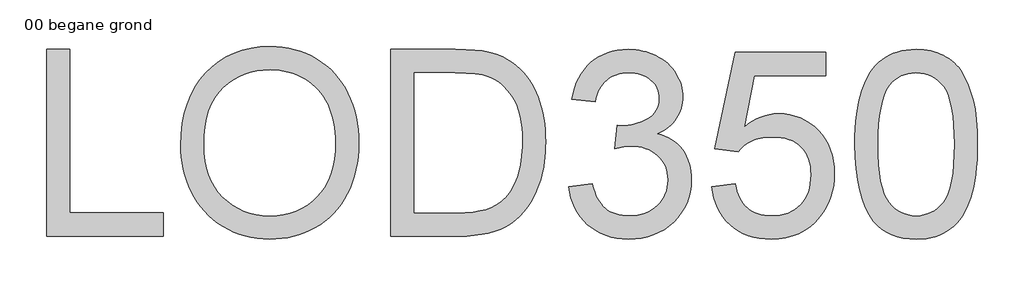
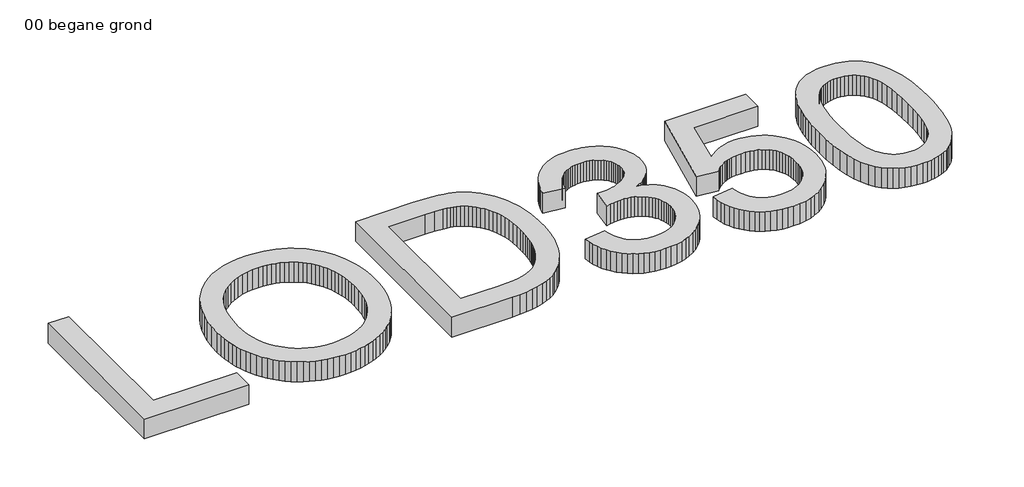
# One storey, part 4 of 4: 1 proxy.
"""IFC4 building model written with IfcOpenShell, lengths in millimetres."""

import ifcopenshell
import ifcopenshell.guid

model = None  # the IFC model being written
_history = None  # IfcOwnerHistory: only IFC2X3 demands one
_inside = {}  # id of a spatial element -> (the spatial element, [elements in it])
_under = {}  # id of a project, library or spatial element -> (it, [spatial elements below it])
_declared = {}  # id of a project -> (the project, [libraries it declares])
_typed = {}  # id of a type object -> (the type object, [elements of that type])
_made_of = {}  # id of a material, layer set ... -> (it, [elements and type objects made of it])


def new_model(schema):
    """Start an empty IFC model of exactly this schema.

    Asked for "IFC4X3", IfcOpenShell would pick the latest addendum, in which some entities
    have other attributes; the version numbers below select the first issue.
    IFC2X3 requires an IfcOwnerHistory on every rooted entity: one is made here for all.
    """
    global model, _history
    if schema == "IFC4X3":
        model = ifcopenshell.file(schema_version=(4, 3, 0, 0))
    else:
        model = ifcopenshell.file(schema=schema)
    _inside.clear()
    _under.clear()
    _declared.clear()
    _typed.clear()
    _made_of.clear()
    _history = None
    if model.schema == "IFC2X3":
        org = make("IfcOrganization", Name="unknown")
        user = make(
            "IfcPersonAndOrganization",
            ThePerson=make("IfcPerson", FamilyName="unknown"),
            TheOrganization=org,
        )
        app = make(
            "IfcApplication",
            ApplicationDeveloper=org,
            Version="unknown",
            ApplicationFullName="unknown",
            ApplicationIdentifier="unknown",
        )
        _history = make(
            "IfcOwnerHistory",
            OwningUser=user,
            OwningApplication=app,
            ChangeAction="ADDED",
            CreationDate=0,
        )
    return model


def make(cls, **values):
    """One entity of the class cls with the attributes given. An attribute that is None is left unset."""
    return model.create_entity(
        cls, **{name: value for name, value in values.items() if value is not None}
    )


def rooted(cls, **values):
    """An entity with a GlobalId (a new one), such as an element, a storey or a relation."""
    return make(cls, GlobalId=ifcopenshell.guid.new(), OwnerHistory=_history, **values)


def si_unit(unit_type, name, prefix=None):
    """IfcSIUnit, for example si_unit("LENGTHUNIT", "METRE", prefix="MILLI")."""
    return make("IfcSIUnit", UnitType=unit_type, Prefix=prefix, Name=name)


def assignment(units):
    """IfcUnitAssignment: the units of a project."""
    return None if units is None else make("IfcUnitAssignment", Units=units)


def point(xyz):
    """IfcCartesianPoint."""
    return None if xyz is None else make("IfcCartesianPoint", Coordinates=xyz)


def direction(xyz):
    """IfcDirection."""
    return None if xyz is None else make("IfcDirection", DirectionRatios=xyz)


def frame(location, z_axis=None, x_axis=None):
    """IfcAxis2Placement3D, a coordinate frame: its origin and axes. An axis left out is left unset."""
    return make(
        "IfcAxis2Placement3D",
        Location=point(location),
        Axis=direction(z_axis),
        RefDirection=direction(x_axis),
    )


def origin():
    """The frame at (0, 0, 0) with its axes left unset."""
    return frame((0.0, 0.0, 0.0))


def origin_with_axes():
    """The frame at (0, 0, 0) with the z axis (0, 0, 1) and the x axis (1, 0, 0) written out."""
    return frame((0.0, 0.0, 0.0), z_axis=(0.0, 0.0, 1.0), x_axis=(1.0, 0.0, 0.0))


def place(relative_to, where):
    """IfcLocalPlacement: puts the frame where relative to a parent placement (None: the world)."""
    return make(
        "IfcLocalPlacement", PlacementRelTo=relative_to, RelativePlacement=where
    )


def context(
    kind, dimensions, precision=None, world=None, true_north=None, identifier=None
):
    """IfcGeometricRepresentationContext, for example the 3D "Model" context."""
    return make(
        "IfcGeometricRepresentationContext",
        ContextIdentifier=identifier,
        ContextType=kind,
        CoordinateSpaceDimension=dimensions,
        Precision=precision,
        WorldCoordinateSystem=world,
        TrueNorth=true_north,
    )


def project(units=None, contexts=None):
    """IfcProject with its units and contexts."""
    return rooted(
        "IfcProject",
        Name="project",
        RepresentationContexts=contexts,
        UnitsInContext=assignment(units),
    )


def spatial(cls, under=None, at=None, **own):
    """A site, building, storey or space (cls), placed at a placement, below another one or the project."""
    s = rooted(cls, ObjectPlacement=at, **own)
    if under is not None:
        _under.setdefault(under.id(), (under, []))[1].append(s)
    return s


def polyline(points):
    """IfcPolyline through the points."""
    return make("IfcPolyline", Points=[point(p) for p in points])


def outline(outer, holes=None, kind="AREA"):
    """IfcArbitraryClosedProfileDef: a profile drawn as a closed curve; with holes, ...WithVoids."""
    if holes is None:
        return make("IfcArbitraryClosedProfileDef", ProfileType=kind, OuterCurve=outer)
    return make(
        "IfcArbitraryProfileDefWithVoids",
        ProfileType=kind,
        OuterCurve=outer,
        InnerCurves=holes,
    )


def extrude(swept, where, along, depth):
    """IfcExtrudedAreaSolid: the profile swept, set in the frame where, extruded along a direction by depth."""
    return make(
        "IfcExtrudedAreaSolid",
        SweptArea=swept,
        Position=where,
        ExtrudedDirection=direction(along),
        Depth=depth,
    )


def shape(context_of_items, identifier, shape_type, items):
    """IfcShapeRepresentation: the items that make up one representation, for example the "Body"."""
    return make(
        "IfcShapeRepresentation",
        ContextOfItems=context_of_items,
        RepresentationIdentifier=identifier,
        RepresentationType=shape_type,
        Items=items,
    )


def made_of(thing, what):
    """Note that an element or type object is made of a material, layer set ...; save() writes the relation."""
    if what is not None:
        _made_of.setdefault(what.id(), (what, []))[1].append(thing)
    return thing


def element(
    cls,
    number,
    at=None,
    inside=None,
    cuts=None,
    type_object=None,
    material=None,
    context=None,
    identifier="Body",
    shape_type=None,
    held_by="IfcProductDefinitionShape",
    body=None,
    shapes=None,
    **own,
):
    """One element of the class cls, such as IfcWall. Its Tag is "e" and its number.

    at: its placement. inside: the storey or other place that contains it. cuts: it is an
    opening in that element (IfcRelVoidsElement). A single representation is given by context,
    identifier, shape_type and body (its items); several are given by shapes. held_by: the class
    of the entity that holds the representations. save() writes the other relations.
    """
    e = rooted(cls, Tag="e%d" % number, ObjectPlacement=at, **own)
    if body is not None:
        shapes = [shape(context, identifier, shape_type, body)]
    if shapes is not None:
        e.Representation = make(held_by, Representations=shapes)
    if inside is not None:
        _inside.setdefault(inside.id(), (inside, []))[1].append(e)
    if cuts is not None:
        rooted(
            "IfcRelVoidsElement", RelatingBuildingElement=cuts, RelatedOpeningElement=e
        )
    if type_object is not None:
        _typed.setdefault(type_object.id(), (type_object, []))[1].append(e)
    return made_of(e, material)


def aggregate(whole, parts):
    """IfcRelAggregates: a whole, such as a stair, and the parts it consists of."""
    return rooted("IfcRelAggregates", RelatingObject=whole, RelatedObjects=parts)


def save(model, path):
    """Write the relations noted so far, then the file.

    IfcRelAggregates (storeys below a building ...), IfcRelContainedInSpatialStructure (elements
    in a storey), IfcRelDefinesByType, IfcRelAssociatesMaterial and IfcRelDeclares: one each for
    every whole, place, type object, material and project.
    """
    for whole, parts in _under.values():
        aggregate(whole, parts)
    for where, things in _inside.values():
        rooted(
            "IfcRelContainedInSpatialStructure",
            RelatedElements=things,
            RelatingStructure=where,
        )
    for kind, things in _typed.values():
        rooted("IfcRelDefinesByType", RelatedObjects=things, RelatingType=kind)
    for what, things in _made_of.values():
        rooted("IfcRelAssociatesMaterial", RelatedObjects=things, RelatingMaterial=what)
    for by, libraries in _declared.values():
        rooted("IfcRelDeclares", RelatingContext=by, RelatedDefinitions=libraries)
    model.write(path)


model = new_model("IFC4")

# Units and contexts
model_context = context("Model", 3, world=origin())
ifc_project = project(units=[si_unit("LENGTHUNIT", "METRE", prefix="MILLI")], contexts=[model_context])

# Site, building, storey
site = spatial("IfcSite", under=ifc_project)
building = spatial("IfcBuilding", under=site)
storey = spatial("IfcBuildingStorey", under=building, Name="00 begane grond", Elevation=0.0)

# Proxy
placement = place(None, origin())
element("IfcBuildingElementProxy", 1, Name="LOD aanduiding", ObjectType="LOD aanduiding", at=placement, inside=storey, context=model_context, shape_type="SweptSolid", body=[
    extrude(outline(polyline([(17168.7261597, 52189.2600205), (17168.7261597, 56181.6808038), (17667.7787576, 56181.6808038), (17667.7787576, 52688.3126184), (19663.9891493, 52688.3126184), (19663.9891493, 52189.2600205), (17168.7261597, 52189.2600205)])), origin_with_axes(), (0.0, 0.0, 1.0), 500.0),
    extrude(outline(polyline([(20038.2785977, 54132.8359585), (20046.5941104, 54373.6964576), (20071.5406483, 54601.1242056), (20113.1182116, 54815.1192023), (20171.3268001, 55015.6814479), (20246.1664139, 55202.8109422), (20337.6370531, 55376.5076853), (20445.7387175, 55536.7716773), (20570.4714072, 55683.602918), (20708.3474805, 55814.9606041), (20855.8792956, 55928.803932), (21013.0668524, 56025.1329018), (21179.9101511, 56103.9475134), (21356.4091915, 56165.2477669), (21542.5639738, 56209.0336623), (21738.3744978, 56235.3051995), (21943.8407636, 56244.0623786), (22079.8283322, 56239.9503119), (22212.4348681, 56227.6141118), (22341.6603715, 56207.0537783), (22467.5048422, 56178.2693115), (22589.9682803, 56141.2607112), (22709.0506858, 56096.0279776), (22824.7520587, 56042.5711106), (22937.0723989, 55980.8901101), (23044.4125695, 55911.8530793), (23145.1734334, 55836.328121), (23239.3549906, 55754.3152353), (23326.9572411, 55665.8144221), (23407.9801848, 55570.8256815), (23482.4238219, 55469.3490134), (23550.2881522, 55361.3844178), (23611.5731758, 55246.9318948), (23665.9438354, 55127.2555242), (23713.0650738, 55003.6193856), (23752.9368908, 54876.023479), (23785.5592866, 54744.4678046), (23810.9322611, 54608.9523622), (23829.0558143, 54469.4771518), (23839.9299462, 54326.0421736), (23843.5546569, 54178.6474274), (23839.7395728, 54029.3184869), (23828.2943205, 53883.9797741), (23809.2189, 53742.6312889), (23782.5133113, 53605.2730315), (23748.1775544, 53471.9050017), (23706.2116293, 53342.5271996), (23656.615536, 53217.1396252), (23599.3892745, 53095.7422784), (23535.1648847, 52979.9647561), (23464.5744064, 52871.4366552), (23387.6178397, 52770.1579755), (23304.2951846, 52676.1287171), (23214.606441, 52589.3488799), (23118.551609, 52509.8184641), (23016.1306886, 52437.5374695), (22907.3436797, 52372.5058963), (22794.2694606, 52314.9369625), (22678.9869093, 52265.0438867), (22561.4960259, 52222.8266686), (22441.7968104, 52188.2853084), (22319.8892628, 52161.419806), (22195.7733831, 52142.2301614), (22069.4491712, 52130.7163746), (21940.9166273, 52126.8784457), (21802.4161291, 52131.1199664), (21667.6317208, 52143.8445283), (21536.5634024, 52165.0521315), (21409.2111738, 52194.7427761), (21285.5750352, 52232.9164619), (21165.6549865, 52279.573189), (21049.4510277, 52334.7129574), (20936.9631588, 52398.3357671), (20829.6839077, 52469.2917623), (20729.1058024, 52546.4310876), (20635.2288427, 52629.7537427), (20548.0530288, 52719.2597277), (20467.5783606, 52814.9490427), (20393.8048381, 52916.8216876), (20326.7324614, 53024.8776624), (20266.3612304, 53139.1169671), (20212.9043633, 53257.3084248), (20166.5750786, 53377.2208586), (20127.3733761, 53498.8542684), (20095.2992559, 53622.2086543), (20070.3527179, 53747.2840162), (20052.5337623, 53874.0803543), (20041.8423889, 54002.5976683), (20038.2785977, 54132.8359585)]), holes=[polyline([(20537.3311956, 54127.9623979), (20543.5678301, 53957.8903654), (20562.2777336, 53797.1085577), (20593.460906, 53645.6169747), (20637.1173474, 53503.4156165), (20693.2470578, 53370.504483), (20761.8500371, 53246.8835742), (20842.9262855, 53132.5528903), (20936.4758028, 53027.512431), (21039.4373838, 52933.3917934), (21148.7498235, 52851.8205741), (21264.4131216, 52782.7987731), (21386.4272784, 52726.3263905), (21514.7922937, 52682.4034262), (21649.5081676, 52651.0298804), (21790.5749, 52632.2057528), (21937.992491, 52625.9310436), (22088.1057701, 52632.2666723), (22231.4112944, 52651.2735584), (22367.9090639, 52682.9517018), (22497.5990784, 52727.3011026), (22620.4813382, 52784.3217608), (22736.555843, 52854.0136763), (22845.822593, 52936.3768492), (22948.2815881, 53031.4112795), (23041.145761, 53138.0965654), (23121.6280441, 53255.4123052), (23189.7284375, 53383.3584989), (23245.4469412, 53521.9351465), (23288.7835552, 53671.142248), (23319.7382795, 53830.9798033), (23338.3111141, 54001.4478126), (23344.5020589, 54182.5462758), (23341.8520604, 54298.6131658), (23333.9020648, 54410.933506), (23320.6520721, 54519.5072966), (23302.1020824, 54624.3345376), (23278.2520955, 54725.4152289), (23249.1021116, 54822.7493705), (23214.6521307, 54916.3369625), (23174.9021526, 55006.1780048), (23130.0577808, 55091.6709174), (23080.3246187, 55172.21412), (23025.7026661, 55247.8076127), (22966.1919231, 55318.4513956), (22901.7923897, 55384.1454685), (22832.5040659, 55444.8898315), (22758.3269517, 55500.6844846), (22679.2610471, 55551.5294278), (22596.4942824, 55596.8763855), (22511.2145882, 55636.1770821), (22423.4219642, 55669.4315178), (22333.1164107, 55696.6396924), (22240.2979275, 55717.801606), (22144.9665146, 55732.9172586), (22047.1221721, 55741.9866501), (21946.7648999, 55745.0097807), (21805.020438, 55739.1843528), (21668.3018353, 55721.7080694), (21536.609092, 55692.5809303), (21409.9422079, 55651.8029356), (21288.3011832, 55599.3740852), (21171.6860177, 55535.2943792), (21060.0967115, 55459.5638176), (20953.5332646, 55372.1824004), (20855.9859047, 55271.1854734), (20771.4448594, 55154.6083826), (20699.9101288, 55022.451128), (20641.3817129, 54874.7137096), (20595.8596116, 54711.3961274), (20563.3438249, 54532.4983814), (20543.834353, 54338.0204716), (20537.3311956, 54127.9623979)])]), origin_with_axes(), (0.0, 0.0, 1.0), 500.0),
    extrude(outline(polyline([(24529.751979, 52189.2600205), (24529.751979, 56181.6808038), (25907.0201838, 56181.6808038), (26126.6350051, 56178.086553), (26318.5923703, 56167.3038003), (26482.8922795, 56149.3325458), (26619.5347328, 56124.1727896), (26703.7559507, 56102.4397557), (26784.8702737, 56076.716494), (26862.8777019, 56047.0030047), (26937.7782352, 56013.2992876), (27009.5718737, 55975.6053429), (27078.2586174, 55933.9211706), (27143.8384662, 55888.2467705), (27206.3114202, 55838.5821428), (27282.7806308, 55769.4994223), (27354.2849017, 55695.7868193), (27420.8242328, 55617.4443339), (27482.398624, 55534.4719659), (27539.0080755, 55446.8697154), (27590.6525872, 55354.6375825), (27637.3321592, 55257.775567), (27679.0467913, 55156.283669), (27715.8269434, 55050.6187849), (27747.7030752, 54941.2378108), (27774.6751867, 54828.1407468), (27796.743278, 54711.327593), (27813.907349, 54590.7983492), (27826.1673997, 54466.5530155), (27833.5234301, 54338.5915919), (27835.9754402, 54206.9140785), (27834.3153837, 54094.9668702), (27829.335214, 53986.2331659), (27821.0349313, 53880.7129655), (27809.4145354, 53778.4062692), (27794.4740264, 53679.3130768), (27776.2134043, 53583.4333884), (27754.6326691, 53490.7672039), (27729.7318208, 53401.3145234), (27672.8330016, 53233.207145), (27641.550835, 53154.8418147), (27608.3801637, 53080.2687237), (27573.3209876, 53009.487872), (27536.3733069, 52942.4992596), (27497.5371214, 52879.3028865), (27456.8124313, 52819.8987526), (27371.5251221, 52711.0051346), (27282.3389644, 52614.3563374), (27189.2539584, 52529.952361), (27092.2701039, 52457.7932055), (26988.2500464, 52395.746688), (26874.0564313, 52341.6806259), (26749.6892586, 52295.5950192), (26615.1485283, 52257.4898678), (26470.3124014, 52227.6393096), (26315.0590389, 52206.3174823), (26149.3884408, 52193.5243859), (25973.300607, 52189.2600205), (24529.751979, 52189.2600205)]), holes=[polyline([(25028.8045769, 52688.3126184), (25911.8937444, 52688.3126184), (26105.5568558, 52692.8206619), (26277.1671058, 52706.3447923), (26426.7244945, 52728.8850098), (26493.2333658, 52743.5361511), (26554.2290218, 52760.4413142), (26664.7370067, 52800.221752), (26763.3047683, 52847.4343696), (26849.9323067, 52902.079167), (26888.7684922, 52932.1886331), (26924.6196218, 52964.1561442), (26972.007383, 53012.1987901), (27016.699456, 53064.2164338), (27058.6958408, 53120.2090752), (27097.9965375, 53180.1767145), (27134.601546, 53244.1193516), (27168.5108664, 53312.0369865), (27199.7244986, 53383.9296192), (27228.2424426, 53459.7972497), (27253.7144113, 53539.7160274), (27275.7901175, 53623.7621017), (27294.4695612, 53711.9354725), (27309.7527424, 53804.23614), (27321.6396611, 53900.6641039), (27330.1303173, 54001.2193645), (27335.2247111, 54105.9019216), (27336.9228423, 54214.7117753), (27333.5951143, 54364.0254859), (27323.6119301, 54504.4449486), (27306.9732899, 54635.9701633), (27283.6791936, 54758.6011301), (27253.7296411, 54872.3378489), (27217.1246326, 54977.1803197), (27173.864168, 55073.1285426), (27123.9482473, 55160.1825175), (27069.2653752, 55239.377876), (27011.7040564, 55311.7502498), (26951.264291, 55377.2996389), (26887.9460788, 55436.0260433), (26821.74942, 55487.9294629), (26752.6743144, 55533.0098978), (26680.7207622, 55571.2673479), (26605.8887633, 55602.7018133), (26546.6445432, 55621.4345616), (26479.0543506, 55637.6696101), (26403.1181857, 55651.4069588), (26318.8360483, 55662.6466078), (26125.2338564, 55677.6328064), (25898.2477749, 55682.6282059), (25028.8045769, 55682.6282059), (25028.8045769, 52688.3126184)])]), origin_with_axes(), (0.0, 0.0, 1.0), 500.0),
    extrude(outline(polyline([(28335.0280382, 53249.746791), (28834.0806361, 53312.1283658), (28857.1462843, 53224.1758282), (28883.4558962, 53142.589379), (28913.0094718, 53067.3690182), (28945.8070112, 52998.5147459), (28981.8485142, 52936.026562), (29021.133981, 52879.9044666), (29063.6634116, 52830.1484596), (29109.4368058, 52786.758541), (29158.9567498, 52749.0645963), (29212.7258293, 52716.3965109), (29270.7440443, 52688.7542848), (29333.011395, 52666.137918), (29399.5278812, 52648.5474105), (29470.2935031, 52635.9827622), (29545.3082605, 52628.4439733), (29624.5721535, 52625.9310436), (29717.4134815, 52629.3882256), (29805.381249, 52639.7597716), (29888.475456, 52657.0456816), (29966.6961025, 52681.2459556), (30040.0431884, 52712.3605936), (30108.5167138, 52750.3895956), (30172.1166787, 52795.3329616), (30230.843083, 52847.1906916), (30283.6146056, 52904.1504302), (30329.3499252, 52964.3998222), (30368.0490417, 53027.9388676), (30399.7119553, 53094.7675663), (30424.3386658, 53164.8859184), (30441.9291733, 53238.2939238), (30452.4834778, 53314.9915826), (30456.0015793, 53394.9788947), (30452.5139376, 53471.2729618), (30442.0510123, 53544.2012261), (30424.6128036, 53613.7636877), (30400.1993113, 53679.9603465), (30368.8105355, 53742.7912026), (30330.4464763, 53802.256256), (30285.1071335, 53858.3555066), (30232.7925072, 53911.0889545), (30175.1017345, 53958.9488419), (30113.6339523, 54000.4274109), (30048.3891608, 54035.5246616), (29979.3673598, 54064.2405941), (29906.5685495, 54086.5752082), (29829.9927297, 54102.5285039), (29749.6399005, 54112.1004814), (29665.5100619, 54115.2911406), (29591.0055054, 54111.8796482), (29507.8503789, 54101.6451711), (29416.0446825, 54084.5877093), (29315.5884161, 54060.7072627), (29371.1470061, 54559.7598606), (29451.0733988, 54553.911588), (29528.7914593, 54556.1503798), (29604.5296358, 54562.8667554), (29678.2879284, 54574.0607148), (29750.0663371, 54589.7322578), (29819.8648617, 54609.8813846), (29887.6835024, 54634.5080952), (29953.5222592, 54663.6123894), (30017.3811319, 54697.1942674), (30076.3207546, 54735.4212578), (30127.4017608, 54778.4608892), (30170.6241508, 54826.3131616), (30205.9879243, 54878.9780751), (30233.4930815, 54936.4556295), (30253.1396224, 54998.745825), (30264.9275469, 55065.8486615), (30268.8568551, 55137.764139), (30266.0088682, 55195.4625267), (30257.4649074, 55250.617525), (30243.2249727, 55303.2291339), (30223.2890642, 55353.2973533), (30197.6571818, 55400.8221834), (30166.3293255, 55445.8036241), (30129.3054954, 55488.2416754), (30086.5856914, 55528.1363372), (30039.3730738, 55564.3453689), (29988.8708029, 55595.7265298), (29935.0788786, 55622.2798197), (29877.9973009, 55644.0052387), (29817.6260699, 55660.9027869), (29753.9651855, 55672.9724641), (29687.0146477, 55680.2142705), (29616.7744567, 55682.6282059), (29546.8693229, 55680.1914257), (29479.9492449, 55672.8810849), (29416.0142227, 55660.6971835), (29355.0642564, 55643.6397217), (29297.0993459, 55621.7086993), (29242.1194912, 55594.9041164), (29190.1246923, 55563.225973), (29141.1149493, 55526.6742691), (29095.714687, 55485.2490046), (29054.5483304, 55438.9501796), (29017.6158795, 55387.7777941), (28984.9173344, 55331.731848), (28956.4526949, 55270.8123414), (28932.2219612, 55205.0192743), (28912.2251332, 55134.3526467), (28896.4622108, 55058.8124585), (28397.4096129, 55121.1940333), (28423.4070123, 55243.8706896), (28456.5624538, 55359.4502235), (28496.8759373, 55467.9326348), (28544.3474628, 55569.3179237), (28598.9770303, 55663.60609), (28660.7646399, 55750.7971338), (28729.7102914, 55830.8910551), (28805.813985, 55903.8878538), (28887.9334799, 55968.9955765), (28974.9265353, 56025.4222695), (29066.7931512, 56073.1679327), (29163.5333277, 56112.2325663), (29265.1470647, 56142.6161702), (29371.6343622, 56164.3187445), (29482.9952202, 56177.340289), (29599.2296388, 56181.6808038), (29680.0622091, 56179.5410062), (29759.2956423, 56173.1216132), (29836.9299385, 56162.4226248), (29912.9650977, 56147.4440411), (29987.4011198, 56128.1858621), (30060.2380048, 56104.6480878), (30131.4757528, 56076.8307181), (30201.1143638, 56044.733753), (30267.9278326, 56008.928313), (30330.6901543, 55969.9855185), (30389.4013288, 55927.9053693), (30444.061356, 55882.6878655), (30494.6702361, 55834.3330072), (30541.227969, 55782.8407942), (30583.7345548, 55728.2112267), (30622.1899933, 55670.4443046), (30656.3429917, 55610.6594238), (30685.9422569, 55549.9759803), (30710.9877891, 55488.3939741), (30731.4795881, 55425.9134052), (30747.417654, 55362.5342735), (30758.8019868, 55298.2565791), (30765.6325865, 55233.080322), (30767.909453, 55167.0055022), (30765.7468106, 55104.5934677), (30759.2588831, 55043.5825819), (30748.4456707, 54983.9728447), (30733.3071733, 54925.7642561), (30713.8433909, 54868.9568163), (30690.0543236, 54813.550525), (30661.9399713, 54759.5453824), (30629.5003341, 54706.9413885), (30592.8267911, 54656.3629682), (30552.0107217, 54608.4345464), (30507.0521259, 54563.1561231), (30457.9510035, 54520.5276984), (30404.7073548, 54480.5492722), (30347.3211796, 54443.2208445), (30285.7924779, 54408.5424154), (30220.1212498, 54376.5139848), (30305.8045359, 54353.273193), (30386.4315028, 54324.4887262), (30462.0021507, 54290.1605842), (30532.5164796, 54250.2887672), (30597.9744894, 54204.873275), (30658.3761802, 54153.9141077), (30713.7215519, 54097.4112654), (30764.0106046, 54035.3647479), (30808.786442, 53968.5055895), (30847.5921676, 53897.564824), (30880.4277817, 53822.5424517), (30907.2932841, 53743.4384724), (30928.1886749, 53660.2528862), (30943.113954, 53572.985693), (30952.0691214, 53481.6368929), (30955.0541773, 53386.2064858), (30949.0840656, 53257.1180513), (30931.1737307, 53133.0250164), (30901.3231725, 53013.9273811), (30859.5323909, 52899.8251452), (30805.8013861, 52790.718309), (30740.130158, 52686.6068722), (30662.5187066, 52587.490835), (30572.967032, 52493.3701973), (30474.2926612, 52407.473693), (30369.3131215, 52333.030056), (30258.0284128, 52270.0392862), (30140.4385352, 52218.5013836), (30016.5434887, 52178.4163483), (29886.3432733, 52149.7841802), (29749.8378889, 52132.6048793), (29607.0273356, 52126.8784457), (29477.9998207, 52131.7672361), (29354.5769003, 52146.4336073), (29236.7585746, 52170.8775594), (29124.5448435, 52205.0990922), (29017.935707, 52249.0982058), (28916.931165, 52302.8749002), (28821.5312177, 52366.4291755), (28731.735865, 52439.7610315), (28649.4183818, 52520.8601247), (28576.4520428, 52607.7161112), (28512.836848, 52700.3289911), (28458.5727975, 52798.6987643), (28413.6598913, 52902.8254309), (28378.0981293, 53012.7089909), (28351.8875116, 53128.3494443), (28335.0280382, 53249.746791)])), origin_with_axes(), (0.0, 0.0, 1.0), 500.0),
    extrude(outline(polyline([(31391.7252004, 53249.746791), (31890.7777984, 53312.1283658), (31907.2869846, 53229.254992), (31928.0605364, 53151.6968452), (31953.0984536, 53079.4539253), (31982.4007363, 53012.5262324), (32015.9673844, 52950.9137664), (32053.798398, 52894.6165274), (32095.893777, 52843.6345154), (32142.2535215, 52797.9677302), (32192.8319419, 52757.6466318), (32247.5833484, 52722.7016799), (32306.5077412, 52693.1328743), (32369.6051201, 52668.9402153), (32436.8754852, 52650.1237027), (32508.3188366, 52636.6833366), (32583.9351741, 52628.6191169), (32663.7244979, 52625.9310436), (32761.5612254, 52629.6699784), (32853.7933584, 52640.8867825), (32940.4208968, 52659.5814561), (33021.4438405, 52685.7539991), (33096.8621897, 52719.4044116), (33166.6759442, 52760.5326934), (33230.8851042, 52809.1388448), (33289.4896695, 52865.2228655), (33341.8042958, 52927.4902162), (33387.1436385, 52994.6463572), (33425.5076978, 53066.6912887), (33456.8964736, 53143.6250106), (33481.3099658, 53225.4475229), (33498.7481746, 53312.1588255), (33509.2110999, 53403.7589186), (33512.6987416, 53500.2478021), (33509.4319331, 53591.5966022), (33499.6315074, 53678.0109223), (33483.2974647, 53759.4907624), (33460.429805, 53836.0361224), (33431.0285281, 53907.6470024), (33395.0936341, 53974.3234023), (33352.6251231, 54036.0653223), (33303.622995, 54092.8727621), (33248.0111004, 54143.8166995), (33185.71329, 54187.9681119), (33116.7295638, 54225.3269993), (33041.0599216, 54255.8933618), (32958.7043637, 54279.6671992), (32869.6628899, 54296.6485117), (32773.9355002, 54306.8372991), (32671.5221947, 54310.2335616), (32544.7182418, 54304.8117255), (32429.4280756, 54288.5462173), (32376.1006625, 54276.3470861), (32325.6516961, 54261.4370369), (32278.0811764, 54243.8160696), (32233.3891034, 54223.4841843), (32150.9954707, 54176.8807617), (32076.8259715, 54123.8198715), (32010.8806056, 54064.3015136), (31953.1593731, 53998.3256879), (31454.1067752, 54060.7072627), (31890.7777984, 56119.2992291), (33824.6066153, 56119.2992291), (33824.6066153, 55620.2466312), (32294.30861, 55620.2466312), (32080.8466589, 54520.7713764), (32168.37276, 54588.3920287), (32256.9649524, 54646.996594), (32346.6232362, 54696.5850724), (32437.3476114, 54737.1574638), (32529.138078, 54768.7137682), (32621.9946359, 54791.2539856), (32715.9172851, 54804.7781161), (32810.9060258, 54809.2861596), (32934.9000665, 54803.6967948), (33053.9443973, 54786.9287006), (33168.0390182, 54758.981877), (33277.1839292, 54719.8563239), (33381.3791302, 54669.5520413), (33480.6246214, 54608.0690293), (33574.9204026, 54535.4072878), (33664.266474, 54451.5668169), (33745.7082393, 54358.9387071), (33816.2911027, 54259.9140492), (33876.0150639, 54154.4928431), (33924.8801231, 54042.6750887), (33962.8862803, 53924.4607862), (33990.0335354, 53799.8499355), (34006.3218885, 53668.8425366), (34011.7513395, 53531.4385895), (34006.8625491, 53399.9133748), (33992.1961779, 53272.8962035), (33967.7522259, 53150.3870758), (33933.5306931, 53032.3859916), (33889.5315794, 52918.8929508), (33835.754885, 52809.9079535), (33772.2006098, 52705.4309997), (33698.8687537, 52605.4620894), (33599.5090385, 52493.2940479), (33491.4987533, 52396.0817453), (33374.8378982, 52313.8251815), (33249.5264732, 52246.5243567), (33115.5644782, 52194.1792706), (32972.9519133, 52156.7899235), (32821.6887784, 52134.3563152), (32661.7750737, 52126.8784457), (32529.8919569, 52131.6834718), (32404.2378596, 52146.0985501), (32284.8127819, 52170.1236805), (32171.6167237, 52203.758863), (32064.6496851, 52247.0040978), (31963.911666, 52299.8593847), (31869.4026665, 52362.3247237), (31781.1226865, 52434.400115), (31700.5185644, 52514.4102719), (31629.0371383, 52600.6799082), (31566.6784084, 52693.2090237), (31513.4423746, 52791.9976186), (31469.3290369, 52897.0456928), (31434.3383953, 53008.3532462), (31408.4704498, 53125.920279), (31391.7252004, 53249.746791)])), origin_with_axes(), (0.0, 0.0, 1.0), 500.0),
    extrude(outline(polyline([(34448.4223627, 54153.3049127), (34450.7144591, 54325.1969154), (34457.5907485, 54489.0018537), (34469.0512306, 54644.7197275), (34485.0959057, 54792.3505367), (34505.7247736, 54931.8942815), (34530.9378344, 55063.3509618), (34560.735088, 55186.7205775), (34595.1165346, 55302.0031288), (34634.0136395, 55409.6859716), (34677.3578684, 55510.256462), (34725.1492214, 55603.7146001), (34777.3876983, 55690.0603857), (34834.0732991, 55769.293819), (34895.206024, 55841.4148998), (34960.7858728, 55906.4236283), (35030.8128456, 55964.3200044), (35105.4011665, 56015.2639417), (35184.6650595, 56059.4153541), (35268.6045246, 56096.7742415), (35357.2195619, 56127.340604), (35450.5101713, 56151.1144414), (35548.4763528, 56168.0957539), (35651.1181065, 56178.2845413), (35758.4354323, 56181.6808038), (35838.3313651, 56179.6704601), (35916.2169543, 56173.639429), (35992.0921998, 56163.5877104), (36065.9571015, 56149.5153044), (36137.8116595, 56131.4222109), (36207.6558738, 56109.30843), (36275.4897444, 56083.1739617), (36341.3132712, 56053.0188059), (36404.3192709, 56019.0790258), (36463.70056, 55981.5906845), (36519.4571384, 55940.5537818), (36571.5890061, 55895.968318), (36620.0961632, 55847.8342928), (36664.9786097, 55796.1517064), (36706.2363455, 55740.9205588), (36743.8693707, 55682.1408499), (36812.2210571, 55554.3926446), (36873.9934368, 55413.3639868), (36929.1865098, 55259.0548767), (36977.800276, 55091.465314), (36999.0459539, 55000.5810252), (37017.4588748, 54902.1579473), (37033.0390386, 54796.1960806), (37045.7864454, 54682.6954249), (37055.701095, 54561.6559802), (37062.7829877, 54433.0777467), (37068.4485018, 54153.3049127), (37066.1792502, 53982.5551507), (37059.3714953, 53819.7401544), (37048.0252372, 53664.8599238), (37032.1404759, 53517.914459), (37011.7172113, 53378.9037599), (36986.7554435, 53247.8278266), (36957.2551724, 53124.686659), (36923.2163981, 53009.4802571), (36884.6619654, 52901.7745695), (36841.614719, 52801.1355446), (36794.0746591, 52707.5631825), (36742.0417855, 52621.0574831), (36685.5160984, 52541.6184465), (36624.4975976, 52469.2460727), (36558.9862832, 52403.9403617), (36488.9821552, 52345.7013134), (36414.3481447, 52294.4147038), (36334.9471828, 52249.9663088), (36250.7792695, 52212.3561284), (36161.8444048, 52181.5841626), (36068.1425888, 52157.6504115), (35969.6738213, 52140.554875), (35866.4381025, 52130.297553), (35758.4354323, 52126.8784457), (35617.102177, 52132.8180976), (35483.5666186, 52150.6370533), (35357.828757, 52180.3353128), (35239.8885922, 52221.912876), (35129.7461243, 52275.369743), (35027.4013533, 52340.7059138), (34932.8542791, 52417.9213884), (34846.1049017, 52507.0161668), (34752.8980566, 52648.0905142), (34672.1187909, 52807.6539318), (34603.7671045, 52985.7064196), (34547.8429975, 53182.2479778), (34504.3464698, 53397.2786061), (34473.2775214, 53630.7983047), (34454.6361524, 53882.8070736), (34448.4223627, 54153.3049127)]), holes=[polyline([(34947.4749606, 54154.2796248), (34951.130131, 53927.0270204), (34962.0956422, 53720.4413587), (34980.3714942, 53534.5226395), (35005.957687, 53369.270863), (35038.8542205, 53224.686029), (35079.0610948, 53100.7681377), (35126.57831, 52997.517189), (35181.4058659, 52914.9331829), (35241.5943384, 52847.1983065), (35305.1943033, 52788.494747), (35372.2057605, 52738.8225043), (35442.6287101, 52698.1815785), (35516.4631521, 52666.5719695), (35593.7090865, 52643.9936773), (35674.3665132, 52630.4467021), (35758.4354323, 52625.9310436), (35842.5043513, 52630.4619319), (35923.1617781, 52644.0545969), (36000.4077124, 52666.7090384), (36074.2421544, 52698.4252565), (36144.665104, 52739.2032512), (36211.6765612, 52789.0430225), (36275.2765261, 52847.9445704), (36335.4649986, 52915.907895), (36390.2925545, 52998.6898895), (36437.8097697, 53102.0474473), (36478.016644, 53225.9805685), (36510.9131776, 53370.4892531), (36536.4993703, 53535.573501), (36554.7752223, 53721.2333122), (36565.7407335, 53927.4686868), (36569.3959039, 54154.2796248), (36565.8625725, 54375.128066), (36555.2625784, 54576.6345639), (36537.5959214, 54758.7991185), (36512.8626018, 54921.6217297), (36481.0626193, 55065.1023976), (36442.1959741, 55189.2411221), (36396.2626662, 55294.0379033), (36343.2626954, 55379.4927412), (36284.5667509, 55450.5401157), (36221.5455213, 55512.114507), (36154.1990068, 55564.215915), (36082.5272073, 55606.8443397), (36006.5301228, 55639.9997812), (35926.2077534, 55663.6822394), (35841.560099, 55677.8917143), (35752.5871596, 55682.6282059), (35668.7314588, 55678.4552197), (35588.7136869, 55665.9362611), (35512.5338439, 55645.0713301), (35440.1919299, 55615.8604267), (35371.6879447, 55578.3035509), (35307.0218885, 55532.4007027), (35246.1937612, 55478.1518821), (35189.2035627, 55415.5570891), (35132.5484216, 55321.0100148), (35083.4472993, 55208.4307667), (35041.9001958, 55077.8193446), (35007.9071112, 54929.1757485), (34981.4680453, 54762.4999785), (34962.5829983, 54577.7920345), (34951.25197, 54375.0519166), (34947.4749606, 54154.2796248)])]), origin_with_axes(), (0.0, 0.0, 1.0), 500.0),
])

save(model, "model.ifc")
